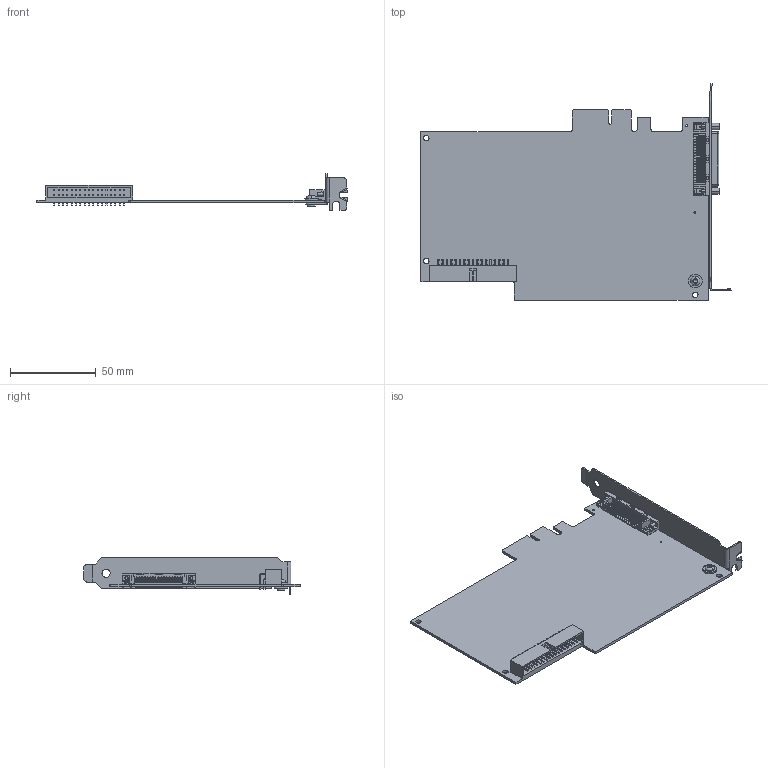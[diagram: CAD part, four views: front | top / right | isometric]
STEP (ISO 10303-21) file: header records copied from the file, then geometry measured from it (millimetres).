
FILE_DESCRIPTION((''),'2;1');
FILE_NAME('CU_PCIE-6346','2018-08-06T',('dkendric'),(''),'CREO PARAMETRIC BY PTC INC, 2017480','CREO PARAMETRIC BY PTC INC, 2017480','');
FILE_SCHEMA(('AUTOMOTIVE_DESIGN { 1 0 10303 214 1 1 1 1 }'));
Products named in the file (1): CU_PCIE-6346
Bounding box: 181.05 x 126.32 x 21.59 mm (x, y, z)
Volume: 31968.2 mm3; surface area: 44248.8 mm2
Topology: 1 solids, 1 shells, 2339 faces, 6366 edges, 4205 vertices
Faces by surface type: plane 1821, cylinder 473, bspline 20, cone 17, torus 6, extrusion 2
Entity records: 81834 total; most frequent: CARTESIAN_POINT 18781, ORIENTED_EDGE 12732, DIRECTION 11814, EDGE_CURVE 6366, VECTOR 5266, LINE 5264, VERTEX_POINT 4205, AXIS2_PLACEMENT_3D 3274
